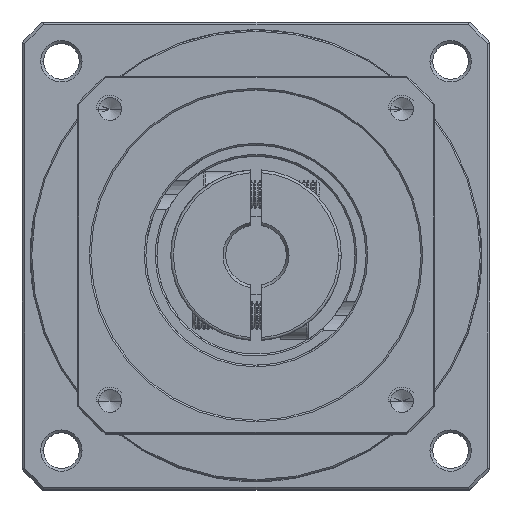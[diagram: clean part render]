
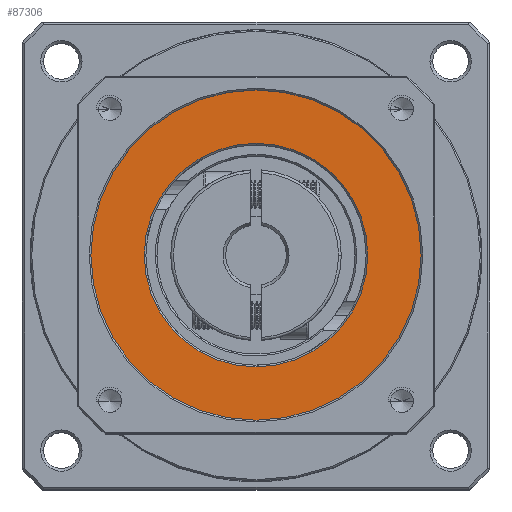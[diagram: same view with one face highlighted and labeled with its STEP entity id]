
A CAD part, top view. The second image highlights one B-rep face of the part: STEP entity #87306.
In plain terms, the highlighted planar face has unit normal (0, 0, 1).
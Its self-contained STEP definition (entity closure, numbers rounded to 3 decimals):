
#4 = DIRECTION ( 'NONE',  ( 1., 0., 0. ) ) ;
#1205 = DIRECTION ( 'NONE',  ( 1., 0., 0. ) ) ;
#2732 = VERTEX_POINT ( 'NONE', #41774 ) ;
#5533 = CIRCLE ( 'NONE', #15959, 30. ) ;
#5601 = EDGE_CURVE ( 'NONE', #2732, #99043, #20601, .T. ) ;
#9845 = CARTESIAN_POINT ( 'NONE',  ( -97.624, 64.145, 1.801 ) ) ;
#12234 = ORIENTED_EDGE ( 'NONE', *, *, #29213, .T. ) ;
#15778 = CARTESIAN_POINT ( 'NONE',  ( -77.324, 64.145, 1.801 ) ) ;
#15959 = AXIS2_PLACEMENT_3D ( 'NONE', #40990, #111449, #4 ) ;
#17256 = EDGE_LOOP ( 'NONE', ( #12234, #101986 ) ) ;
#18423 = CARTESIAN_POINT ( 'NONE',  ( -47.324, 64.145, 1.801 ) ) ;
#20601 = CIRCLE ( 'NONE', #63697, 20.3 ) ;
#21555 = CIRCLE ( 'NONE', #129499, 20.3 ) ;
#24793 = VERTEX_POINT ( 'NONE', #31953 ) ;
#27324 = AXIS2_PLACEMENT_3D ( 'NONE', #15778, #44386, #64813 ) ;
#29213 = EDGE_CURVE ( 'NONE', #121698, #24793, #5533, .T. ) ;
#31953 = CARTESIAN_POINT ( 'NONE',  ( -107.324, 64.145, 1.801 ) ) ;
#38370 = FACE_OUTER_BOUND ( 'NONE', #17256, .T. ) ;
#38764 = EDGE_CURVE ( 'NONE', #24793, #121698, #130108, .T. ) ;
#40990 = CARTESIAN_POINT ( 'NONE',  ( -77.324, 64.145, 1.801 ) ) ;
#41774 = CARTESIAN_POINT ( 'NONE',  ( -57.024, 64.145, 1.801 ) ) ;
#44386 = DIRECTION ( 'NONE',  ( 0., 0., 1. ) ) ;
#47270 = ORIENTED_EDGE ( 'NONE', *, *, #51063, .T. ) ;
#51063 = EDGE_CURVE ( 'NONE', #99043, #2732, #21555, .T. ) ;
#52363 = EDGE_LOOP ( 'NONE', ( #73460, #47270 ) ) ;
#52424 = CARTESIAN_POINT ( 'NONE',  ( -77.324, 64.145, 1.801 ) ) ;
#53964 = DIRECTION ( 'NONE',  ( 1., 0., 0. ) ) ;
#55006 = AXIS2_PLACEMENT_3D ( 'NONE', #79530, #129944, #78639 ) ;
#63697 = AXIS2_PLACEMENT_3D ( 'NONE', #52424, #83110, #1205 ) ;
#64813 = DIRECTION ( 'NONE',  ( 1., 0., 0. ) ) ;
#67157 = FACE_BOUND ( 'NONE', #52363, .T. ) ;
#73460 = ORIENTED_EDGE ( 'NONE', *, *, #5601, .T. ) ;
#73967 = CARTESIAN_POINT ( 'NONE',  ( -77.324, 64.145, 1.801 ) ) ;
#78639 = DIRECTION ( 'NONE',  ( 1., 0., 0. ) ) ;
#79530 = CARTESIAN_POINT ( 'NONE',  ( -77.324, 64.145, 1.801 ) ) ;
#83110 = DIRECTION ( 'NONE',  ( 0., 0., -1. ) ) ;
#84674 = DIRECTION ( 'NONE',  ( 0., 0., -1. ) ) ;
#87306 = ADVANCED_FACE ( 'NONE', ( #67157, #38370 ), #117466, .T. ) ;
#99043 = VERTEX_POINT ( 'NONE', #9845 ) ;
#101986 = ORIENTED_EDGE ( 'NONE', *, *, #38764, .T. ) ;
#111449 = DIRECTION ( 'NONE',  ( 0., 0., 1. ) ) ;
#117466 = PLANE ( 'NONE',  #27324 ) ;
#121698 = VERTEX_POINT ( 'NONE', #18423 ) ;
#129499 = AXIS2_PLACEMENT_3D ( 'NONE', #73967, #84674, #53964 ) ;
#129944 = DIRECTION ( 'NONE',  ( 0., 0., 1. ) ) ;
#130108 = CIRCLE ( 'NONE', #55006, 30. ) ;
